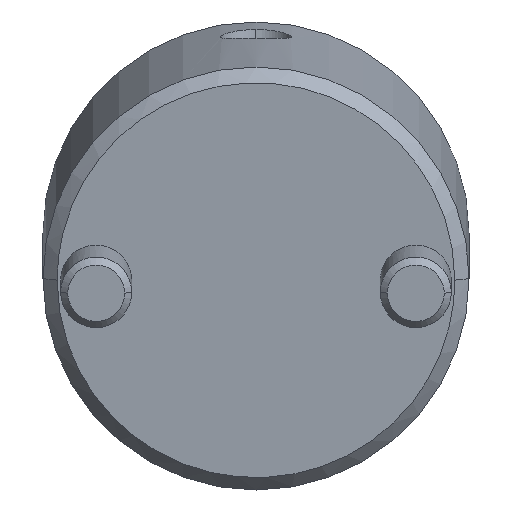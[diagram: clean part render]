
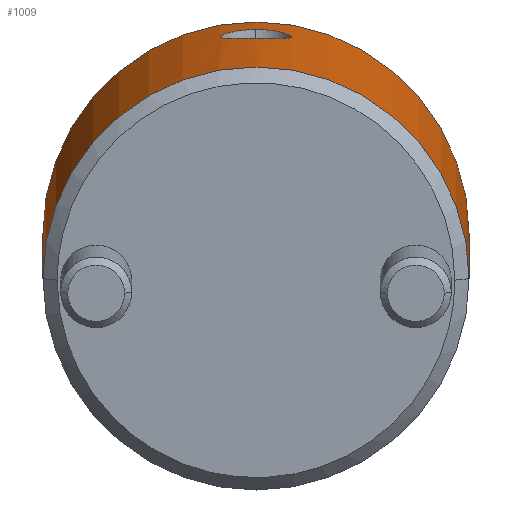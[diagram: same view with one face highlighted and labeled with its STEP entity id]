
A CAD part, front view. The second image highlights one B-rep face of the part: STEP entity #1009.
In plain terms, the highlighted cylindrical face has radius 15 mm (diameter 30 mm), a partial arc.
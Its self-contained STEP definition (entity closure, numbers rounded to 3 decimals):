
#778=CARTESIAN_POINT('Vertex',(0.,15.,1.)) ;
#781=CARTESIAN_POINT('Axis2P3D Location',(0.,0.,1.)) ;
#785=CARTESIAN_POINT('Vertex',(0.,-15.,1.)) ;
#925=CARTESIAN_POINT('Axis2P3D Location',(0.,0.,-1.4)) ;
#930=CARTESIAN_POINT('Line Origine',(0.,15.,-1.4)) ;
#934=CARTESIAN_POINT('Vertex',(0.,15.,27.)) ;
#937=CARTESIAN_POINT('Axis2P3D Location',(0.,0.,27.)) ;
#941=CARTESIAN_POINT('Vertex',(0.,-15.,27.)) ;
#944=CARTESIAN_POINT('Line Origine',(0.,-15.,-1.4)) ;
#956=CARTESIAN_POINT('Control Point',(15.,0.,22.654)) ;
#957=CARTESIAN_POINT('Control Point',(15.,0.149,22.654)) ;
#958=CARTESIAN_POINT('Control Point',(14.998,0.297,22.643)) ;
#959=CARTESIAN_POINT('Control Point',(14.995,0.445,22.62)) ;
#960=CARTESIAN_POINT('Control Point',(14.983,0.745,22.549)) ;
#961=CARTESIAN_POINT('Control Point',(14.966,1.031,22.434)) ;
#962=CARTESIAN_POINT('Control Point',(14.956,1.165,22.366)) ;
#963=CARTESIAN_POINT('Control Point',(14.911,1.692,22.05)) ;
#964=CARTESIAN_POINT('Control Point',(14.855,2.111,21.583)) ;
#965=CARTESIAN_POINT('Control Point',(14.816,2.347,21.162)) ;
#966=CARTESIAN_POINT('Control Point',(14.776,2.584,20.305)) ;
#967=CARTESIAN_POINT('Control Point',(14.797,2.458,19.442)) ;
#968=CARTESIAN_POINT('Control Point',(14.82,2.325,19.071)) ;
#969=CARTESIAN_POINT('Control Point',(14.869,2.007,18.537)) ;
#970=CARTESIAN_POINT('Control Point',(14.921,1.55,18.129)) ;
#971=CARTESIAN_POINT('Control Point',(14.94,1.363,17.996)) ;
#972=CARTESIAN_POINT('Control Point',(14.971,0.988,17.792)) ;
#973=CARTESIAN_POINT('Control Point',(14.991,0.572,17.671)) ;
#974=CARTESIAN_POINT('Control Point',(14.997,0.38,17.633)) ;
#975=CARTESIAN_POINT('Control Point',(15.,0.19,17.616)) ;
#976=CARTESIAN_POINT('Control Point',(15.,0.,17.616)) ;
#977=CARTESIAN_POINT('Vertex',(15.,0.,22.654)) ;
#979=CARTESIAN_POINT('Vertex',(15.,0.,17.616)) ;
#983=CARTESIAN_POINT('Control Point',(15.,0.,17.616)) ;
#984=CARTESIAN_POINT('Control Point',(15.,-0.15,17.616)) ;
#985=CARTESIAN_POINT('Control Point',(14.998,-0.3,17.627)) ;
#986=CARTESIAN_POINT('Control Point',(14.994,-0.451,17.65)) ;
#987=CARTESIAN_POINT('Control Point',(14.983,-0.754,17.72)) ;
#988=CARTESIAN_POINT('Control Point',(14.965,-1.044,17.833)) ;
#989=CARTESIAN_POINT('Control Point',(14.954,-1.18,17.901)) ;
#990=CARTESIAN_POINT('Control Point',(14.909,-1.707,18.212)) ;
#991=CARTESIAN_POINT('Control Point',(14.853,-2.126,18.672)) ;
#992=CARTESIAN_POINT('Control Point',(14.815,-2.355,19.084)) ;
#993=CARTESIAN_POINT('Control Point',(14.772,-2.607,20.01)) ;
#994=CARTESIAN_POINT('Control Point',(14.803,-2.424,20.961)) ;
#995=CARTESIAN_POINT('Control Point',(14.838,-2.222,21.404)) ;
#996=CARTESIAN_POINT('Control Point',(14.893,-1.84,21.905)) ;
#997=CARTESIAN_POINT('Control Point',(14.941,-1.341,22.262)) ;
#998=CARTESIAN_POINT('Control Point',(14.952,-1.211,22.341)) ;
#999=CARTESIAN_POINT('Control Point',(14.975,-0.903,22.497)) ;
#1000=CARTESIAN_POINT('Control Point',(14.991,-0.566,22.598)) ;
#1001=CARTESIAN_POINT('Control Point',(14.997,-0.377,22.636)) ;
#1002=CARTESIAN_POINT('Control Point',(15.,-0.189,22.654)) ;
#1003=CARTESIAN_POINT('Control Point',(15.,0.,22.654)) ;
#782=DIRECTION('Axis2P3D Direction',(0.,0.,1.)) ;
#926=DIRECTION('Axis2P3D Direction',(0.,-0.,1.)) ;
#927=DIRECTION('Axis2P3D XDirection',(0.,-1.,0.)) ;
#931=DIRECTION('Vector Direction',(0.,0.,1.)) ;
#938=DIRECTION('Axis2P3D Direction',(0.,-0.,1.)) ;
#945=DIRECTION('Vector Direction',(0.,0.,1.)) ;
#783=AXIS2_PLACEMENT_3D('Circle Axis2P3D',#781,#782,$) ;
#928=AXIS2_PLACEMENT_3D('Cylinder Axis2P3D',#925,#926,#927) ;
#939=AXIS2_PLACEMENT_3D('Circle Axis2P3D',#937,#938,$) ;
#950=ORIENTED_EDGE('',*,*,#936,.F.) ;
#951=ORIENTED_EDGE('',*,*,#943,.T.) ;
#952=ORIENTED_EDGE('',*,*,#948,.T.) ;
#953=ORIENTED_EDGE('',*,*,#787,.F.) ;
#1006=ORIENTED_EDGE('',*,*,#981,.T.) ;
#1007=ORIENTED_EDGE('',*,*,#1004,.T.) ;
#1008=FACE_BOUND('',#1005,.T.) ;
#932=VECTOR('Line Direction',#931,1.) ;
#946=VECTOR('Line Direction',#945,1.) ;
#1009=ADVANCED_FACE('MANIFOLD_SOLID_BREP #1110',(#954,#1008),#929,.T.) ;
#955=B_SPLINE_CURVE_WITH_KNOTS('',5,(#956,#957,#958,#959,#960,#961,#962,#963,#964,#965,#966,#967,#968,#969,#970,#971,#972,#973,#974,#975,#976),.UNSPECIFIED.,.F.,.U.,(6,3,3,3,3,3,6),(0.,1.077,2.166,5.465,8.177,9.809,11.181),.UNSPECIFIED.) ;
#982=B_SPLINE_CURVE_WITH_KNOTS('',5,(#983,#984,#985,#986,#987,#988,#989,#990,#991,#992,#993,#994,#995,#996,#997,#998,#999,#1000,#1001,#1002,#1003),.UNSPECIFIED.,.F.,.U.,(6,3,3,3,3,3,6),(0.,1.092,2.182,5.455,8.739,9.821,11.18),.UNSPECIFIED.) ;
#784=CIRCLE('generated circle',#783,15.) ;
#940=CIRCLE('generated circle',#939,15.) ;
#929=CYLINDRICAL_SURFACE('generated cylinder',#928,15.) ;
#787=EDGE_CURVE('',#779,#786,#784,.F.) ;
#936=EDGE_CURVE('',#935,#779,#933,.F.) ;
#943=EDGE_CURVE('',#935,#942,#940,.F.) ;
#948=EDGE_CURVE('',#942,#786,#947,.F.) ;
#981=EDGE_CURVE('',#978,#980,#955,.T.) ;
#1004=EDGE_CURVE('',#980,#978,#982,.T.) ;
#949=EDGE_LOOP('',(#950,#951,#952,#953)) ;
#1005=EDGE_LOOP('',(#1006,#1007)) ;
#954=FACE_OUTER_BOUND('',#949,.T.) ;
#933=LINE('Line',#930,#932) ;
#947=LINE('Line',#944,#946) ;
#779=VERTEX_POINT('',#778) ;
#786=VERTEX_POINT('',#785) ;
#935=VERTEX_POINT('',#934) ;
#942=VERTEX_POINT('',#941) ;
#978=VERTEX_POINT('',#977) ;
#980=VERTEX_POINT('',#979) ;
